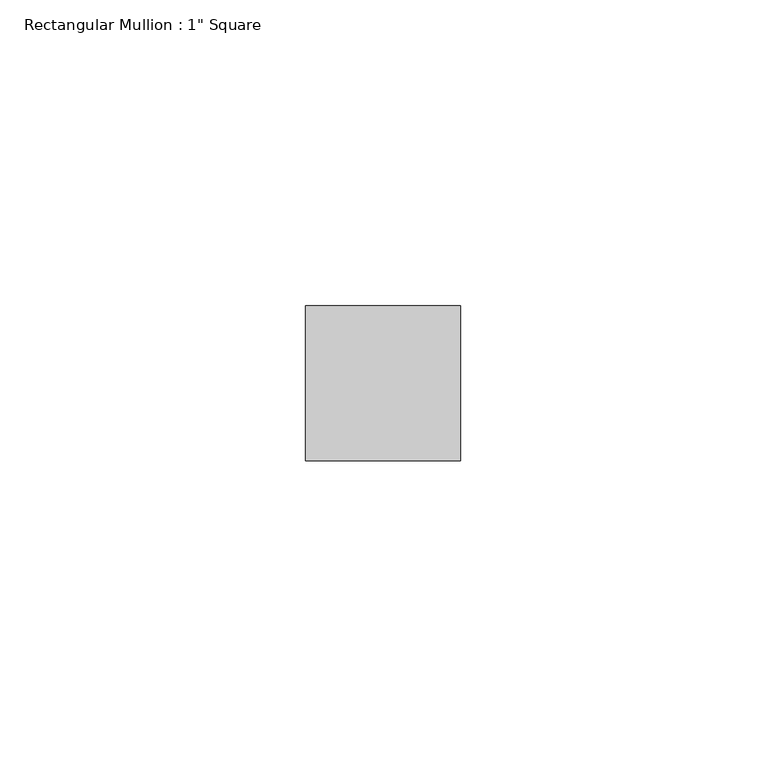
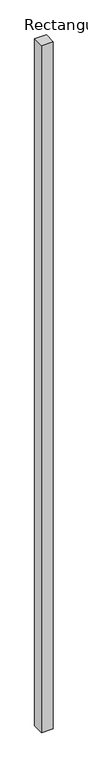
"""IFC4 building model written with IfcOpenShell, lengths in millimetres: member geometry."""

import ifcopenshell
import ifcopenshell.guid

model = None  # the IFC model being written
_history = None  # IfcOwnerHistory: only IFC2X3 demands one
_inside = {}  # id of a spatial element -> (the spatial element, [elements in it])
_under = {}  # id of a project, library or spatial element -> (it, [spatial elements below it])
_declared = {}  # id of a project -> (the project, [libraries it declares])
_typed = {}  # id of a type object -> (the type object, [elements of that type])
_made_of = {}  # id of a material, layer set ... -> (it, [elements and type objects made of it])


def new_model(schema):
    """Start an empty IFC model of exactly this schema.

    Asked for "IFC4X3", IfcOpenShell would pick the latest addendum, in which some entities
    have other attributes; the version numbers below select the first issue.
    IFC2X3 requires an IfcOwnerHistory on every rooted entity: one is made here for all.
    """
    global model, _history
    if schema == "IFC4X3":
        model = ifcopenshell.file(schema_version=(4, 3, 0, 0))
    else:
        model = ifcopenshell.file(schema=schema)
    _inside.clear()
    _under.clear()
    _declared.clear()
    _typed.clear()
    _made_of.clear()
    _history = None
    if model.schema == "IFC2X3":
        org = make("IfcOrganization", Name="unknown")
        user = make(
            "IfcPersonAndOrganization",
            ThePerson=make("IfcPerson", FamilyName="unknown"),
            TheOrganization=org,
        )
        app = make(
            "IfcApplication",
            ApplicationDeveloper=org,
            Version="unknown",
            ApplicationFullName="unknown",
            ApplicationIdentifier="unknown",
        )
        _history = make(
            "IfcOwnerHistory",
            OwningUser=user,
            OwningApplication=app,
            ChangeAction="ADDED",
            CreationDate=0,
        )
    return model


def make(cls, **values):
    """One entity of the class cls with the attributes given. An attribute that is None is left unset."""
    return model.create_entity(
        cls, **{name: value for name, value in values.items() if value is not None}
    )


def rooted(cls, **values):
    """An entity with a GlobalId (a new one), such as an element, a storey or a relation."""
    return make(cls, GlobalId=ifcopenshell.guid.new(), OwnerHistory=_history, **values)


def si_unit(unit_type, name, prefix=None):
    """IfcSIUnit, for example si_unit("LENGTHUNIT", "METRE", prefix="MILLI")."""
    return make("IfcSIUnit", UnitType=unit_type, Prefix=prefix, Name=name)


def assignment(units):
    """IfcUnitAssignment: the units of a project."""
    return None if units is None else make("IfcUnitAssignment", Units=units)


def point(xyz):
    """IfcCartesianPoint."""
    return None if xyz is None else make("IfcCartesianPoint", Coordinates=xyz)


def direction(xyz):
    """IfcDirection."""
    return None if xyz is None else make("IfcDirection", DirectionRatios=xyz)


def frame(location, z_axis=None, x_axis=None):
    """IfcAxis2Placement3D, a coordinate frame: its origin and axes. An axis left out is left unset."""
    return make(
        "IfcAxis2Placement3D",
        Location=point(location),
        Axis=direction(z_axis),
        RefDirection=direction(x_axis),
    )


def origin():
    """The frame at (0, 0, 0) with its axes left unset."""
    return frame((0.0, 0.0, 0.0))


def place(relative_to, where):
    """IfcLocalPlacement: puts the frame where relative to a parent placement (None: the world)."""
    return make(
        "IfcLocalPlacement", PlacementRelTo=relative_to, RelativePlacement=where
    )


def context(
    kind, dimensions, precision=None, world=None, true_north=None, identifier=None
):
    """IfcGeometricRepresentationContext, for example the 3D "Model" context."""
    return make(
        "IfcGeometricRepresentationContext",
        ContextIdentifier=identifier,
        ContextType=kind,
        CoordinateSpaceDimension=dimensions,
        Precision=precision,
        WorldCoordinateSystem=world,
        TrueNorth=true_north,
    )


def project(units=None, contexts=None):
    """IfcProject with its units and contexts."""
    return rooted(
        "IfcProject",
        Name="project",
        RepresentationContexts=contexts,
        UnitsInContext=assignment(units),
    )


def spatial(cls, under=None, at=None, **own):
    """A site, building, storey or space (cls), placed at a placement, below another one or the project."""
    s = rooted(cls, ObjectPlacement=at, **own)
    if under is not None:
        _under.setdefault(under.id(), (under, []))[1].append(s)
    return s


def polyline(points):
    """IfcPolyline through the points."""
    return make("IfcPolyline", Points=[point(p) for p in points])


def outline(outer, holes=None, kind="AREA"):
    """IfcArbitraryClosedProfileDef: a profile drawn as a closed curve; with holes, ...WithVoids."""
    if holes is None:
        return make("IfcArbitraryClosedProfileDef", ProfileType=kind, OuterCurve=outer)
    return make(
        "IfcArbitraryProfileDefWithVoids",
        ProfileType=kind,
        OuterCurve=outer,
        InnerCurves=holes,
    )


def extrude(swept, where, along, depth):
    """IfcExtrudedAreaSolid: the profile swept, set in the frame where, extruded along a direction by depth."""
    return make(
        "IfcExtrudedAreaSolid",
        SweptArea=swept,
        Position=where,
        ExtrudedDirection=direction(along),
        Depth=depth,
    )


def shape(context_of_items, identifier, shape_type, items):
    """IfcShapeRepresentation: the items that make up one representation, for example the "Body"."""
    return make(
        "IfcShapeRepresentation",
        ContextOfItems=context_of_items,
        RepresentationIdentifier=identifier,
        RepresentationType=shape_type,
        Items=items,
    )


def source(mapping_origin, context_of_items, identifier, shape_type, items):
    """IfcRepresentationMap: a shape defined once, which mapped items show again and again."""
    return make(
        "IfcRepresentationMap",
        MappingOrigin=mapping_origin,
        MappedRepresentation=shape(context_of_items, identifier, shape_type, items),
    )


def transform(
    local_origin,
    x_axis=None,
    y_axis=None,
    z_axis=None,
    scale=None,
    scale2=None,
    scale3=None,
    uniform=True,
):
    """IfcCartesianTransformationOperator3D, or its non-uniform kind. x_axis, y_axis, z_axis: its Axis1, 2, 3."""
    if uniform:
        return make(
            "IfcCartesianTransformationOperator3D",
            Axis1=direction(x_axis),
            Axis2=direction(y_axis),
            LocalOrigin=point(local_origin),
            Scale=scale,
            Axis3=direction(z_axis),
        )
    return make(
        "IfcCartesianTransformationOperator3DnonUniform",
        Axis1=direction(x_axis),
        Axis2=direction(y_axis),
        LocalOrigin=point(local_origin),
        Scale=scale,
        Axis3=direction(z_axis),
        Scale2=scale2,
        Scale3=scale3,
    )


def mapped(mapping_source, mapping_target):
    """IfcMappedItem: shows the shape of a source again, moved by a transform."""
    return make(
        "IfcMappedItem", MappingSource=mapping_source, MappingTarget=mapping_target
    )


def made_of(thing, what):
    """Note that an element or type object is made of a material, layer set ...; save() writes the relation."""
    if what is not None:
        _made_of.setdefault(what.id(), (what, []))[1].append(thing)
    return thing


def element(
    cls,
    number,
    at=None,
    inside=None,
    cuts=None,
    type_object=None,
    material=None,
    context=None,
    identifier="Body",
    shape_type=None,
    held_by="IfcProductDefinitionShape",
    body=None,
    shapes=None,
    **own,
):
    """One element of the class cls, such as IfcWall. Its Tag is "e" and its number.

    at: its placement. inside: the storey or other place that contains it. cuts: it is an
    opening in that element (IfcRelVoidsElement). A single representation is given by context,
    identifier, shape_type and body (its items); several are given by shapes. held_by: the class
    of the entity that holds the representations. save() writes the other relations.
    """
    e = rooted(cls, Tag="e%d" % number, ObjectPlacement=at, **own)
    if body is not None:
        shapes = [shape(context, identifier, shape_type, body)]
    if shapes is not None:
        e.Representation = make(held_by, Representations=shapes)
    if inside is not None:
        _inside.setdefault(inside.id(), (inside, []))[1].append(e)
    if cuts is not None:
        rooted(
            "IfcRelVoidsElement", RelatingBuildingElement=cuts, RelatedOpeningElement=e
        )
    if type_object is not None:
        _typed.setdefault(type_object.id(), (type_object, []))[1].append(e)
    return made_of(e, material)


def aggregate(whole, parts):
    """IfcRelAggregates: a whole, such as a stair, and the parts it consists of."""
    return rooted("IfcRelAggregates", RelatingObject=whole, RelatedObjects=parts)


def save(model, path):
    """Write the relations noted so far, then the file.

    IfcRelAggregates (storeys below a building ...), IfcRelContainedInSpatialStructure (elements
    in a storey), IfcRelDefinesByType, IfcRelAssociatesMaterial and IfcRelDeclares: one each for
    every whole, place, type object, material and project.
    """
    for whole, parts in _under.values():
        aggregate(whole, parts)
    for where, things in _inside.values():
        rooted(
            "IfcRelContainedInSpatialStructure",
            RelatedElements=things,
            RelatingStructure=where,
        )
    for kind, things in _typed.values():
        rooted("IfcRelDefinesByType", RelatedObjects=things, RelatingType=kind)
    for what, things in _made_of.values():
        rooted("IfcRelAssociatesMaterial", RelatedObjects=things, RelatingMaterial=what)
    for by, libraries in _declared.values():
        rooted("IfcRelDeclares", RelatingContext=by, RelatedDefinitions=libraries)
    model.write(path)


def member_0d674358(model_context):
    return source(origin(), model_context, "Body", "SweptSolid", [
        extrude(outline(polyline([(12.7, 12.7), (12.7, -12.7), (-12.7, -12.7), (-12.7, 12.7), (12.7, 12.7)])), frame((0.0, 0.0, -1573.6551926), z_axis=(0.0, 0.0, 1.0), x_axis=(1.0, 0.0, 0.0)), (0.0, 0.0, 1.0), 1573.6551926),
    ])


if __name__ == "__main__":
    model = new_model("IFC4")
    model_context = context("Model", 3, world=origin())
    ifc_project = project(units=[si_unit("LENGTHUNIT", "METRE", prefix="MILLI")], contexts=[model_context])
    site = spatial("IfcSite", under=ifc_project)
    building = spatial("IfcBuilding", under=site)
    placement = place(None, origin())
    member_shape = member_0d674358(model_context)
    element("IfcMember", 1, ObjectType="Rectangular Mullion : 1\" Square", at=placement, inside=building, context=model_context, shape_type="MappedRepresentation", body=[
        mapped(member_shape, transform((0.0, 0.0, 0.0), x_axis=(1.0, 0.0, 0.0), y_axis=(0.0, 1.0, 0.0), z_axis=(0.0, 0.0, 1.0))),
    ])
    save(model, "model.ifc")
